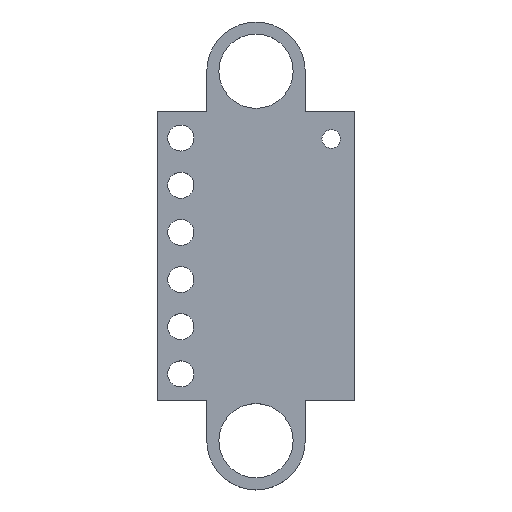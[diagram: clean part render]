
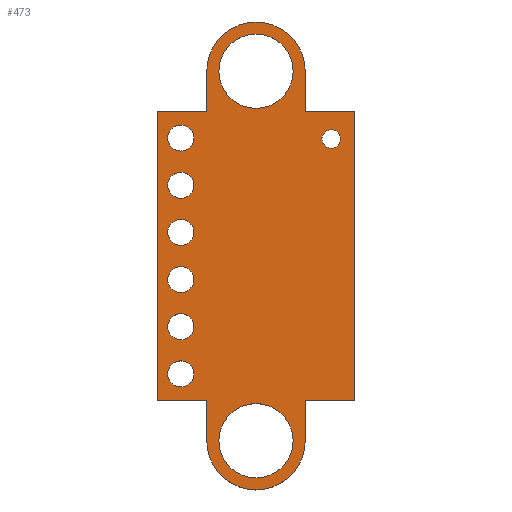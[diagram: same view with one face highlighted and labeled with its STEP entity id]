
A CAD part, top view. The second image highlights one B-rep face of the part: STEP entity #473.
In plain terms, the highlighted planar face has unit normal (0, 0, 1).
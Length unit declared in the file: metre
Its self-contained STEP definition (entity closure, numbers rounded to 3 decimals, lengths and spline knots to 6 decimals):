
#22=PLANE('',#523);
#35=LINE('',#719,#76);
#38=LINE('',#725,#79);
#41=LINE('',#731,#82);
#44=LINE('',#737,#85);
#48=LINE('',#749,#89);
#51=LINE('',#755,#92);
#54=LINE('',#761,#95);
#57=LINE('',#767,#98);
#60=LINE('',#773,#101);
#64=LINE('',#784,#105);
#76=VECTOR('',#594,1.);
#79=VECTOR('',#599,1.);
#82=VECTOR('',#604,1.);
#85=VECTOR('',#609,1.);
#89=VECTOR('',#621,1.);
#92=VECTOR('',#626,1.);
#95=VECTOR('',#631,1.);
#98=VECTOR('',#636,1.);
#101=VECTOR('',#641,1.);
#105=VECTOR('',#653,1.);
#190=ORIENTED_EDGE('',*,*,#294,.T.);
#191=ORIENTED_EDGE('',*,*,#291,.T.);
#192=ORIENTED_EDGE('',*,*,#288,.T.);
#193=ORIENTED_EDGE('',*,*,#285,.T.);
#194=ORIENTED_EDGE('',*,*,#282,.T.);
#195=ORIENTED_EDGE('',*,*,#279,.T.);
#196=ORIENTED_EDGE('',*,*,#276,.T.);
#197=ORIENTED_EDGE('',*,*,#273,.T.);
#198=ORIENTED_EDGE('',*,*,#270,.T.);
#199=ORIENTED_EDGE('',*,*,#267,.T.);
#200=ORIENTED_EDGE('',*,*,#264,.T.);
#201=ORIENTED_EDGE('',*,*,#261,.T.);
#202=ORIENTED_EDGE('',*,*,#256,.T.);
#203=ORIENTED_EDGE('',*,*,#253,.T.);
#204=ORIENTED_EDGE('',*,*,#250,.T.);
#205=ORIENTED_EDGE('',*,*,#247,.T.);
#206=ORIENTED_EDGE('',*,*,#244,.T.);
#207=ORIENTED_EDGE('',*,*,#241,.T.);
#208=ORIENTED_EDGE('',*,*,#238,.T.);
#209=ORIENTED_EDGE('',*,*,#235,.T.);
#210=ORIENTED_EDGE('',*,*,#232,.T.);
#232=EDGE_CURVE('',#295,#295,#337,.F.);
#235=EDGE_CURVE('',#297,#297,#339,.F.);
#238=EDGE_CURVE('',#299,#299,#341,.F.);
#241=EDGE_CURVE('',#301,#301,#343,.F.);
#244=EDGE_CURVE('',#303,#303,#345,.F.);
#247=EDGE_CURVE('',#305,#305,#347,.F.);
#250=EDGE_CURVE('',#307,#307,#349,.F.);
#253=EDGE_CURVE('',#309,#309,#351,.F.);
#256=EDGE_CURVE('',#311,#311,#353,.F.);
#261=EDGE_CURVE('',#316,#315,#35,.F.);
#264=EDGE_CURVE('',#318,#316,#38,.F.);
#267=EDGE_CURVE('',#320,#318,#41,.T.);
#270=EDGE_CURVE('',#322,#320,#44,.F.);
#273=EDGE_CURVE('',#324,#322,#356,.T.);
#276=EDGE_CURVE('',#326,#324,#48,.T.);
#279=EDGE_CURVE('',#328,#326,#51,.T.);
#282=EDGE_CURVE('',#330,#328,#54,.T.);
#285=EDGE_CURVE('',#332,#330,#57,.F.);
#288=EDGE_CURVE('',#334,#332,#60,.T.);
#291=EDGE_CURVE('',#336,#334,#358,.T.);
#294=EDGE_CURVE('',#315,#336,#64,.F.);
#295=VERTEX_POINT('',#661);
#297=VERTEX_POINT('',#667);
#299=VERTEX_POINT('',#673);
#301=VERTEX_POINT('',#679);
#303=VERTEX_POINT('',#685);
#305=VERTEX_POINT('',#691);
#307=VERTEX_POINT('',#697);
#309=VERTEX_POINT('',#703);
#311=VERTEX_POINT('',#709);
#315=VERTEX_POINT('',#718);
#316=VERTEX_POINT('',#720);
#318=VERTEX_POINT('',#726);
#320=VERTEX_POINT('',#732);
#322=VERTEX_POINT('',#738);
#324=VERTEX_POINT('',#744);
#326=VERTEX_POINT('',#750);
#328=VERTEX_POINT('',#756);
#330=VERTEX_POINT('',#762);
#332=VERTEX_POINT('',#768);
#334=VERTEX_POINT('',#774);
#336=VERTEX_POINT('',#780);
#337=CIRCLE('',#481,0.0007);
#339=CIRCLE('',#484,0.002);
#341=CIRCLE('',#487,0.0005);
#343=CIRCLE('',#490,0.0007);
#345=CIRCLE('',#493,0.0007);
#347=CIRCLE('',#496,0.0007);
#349=CIRCLE('',#499,0.0007);
#351=CIRCLE('',#502,0.0007);
#353=CIRCLE('',#505,0.002);
#356=CIRCLE('',#513,0.00265);
#358=CIRCLE('',#521,0.00265);
#380=EDGE_LOOP('',(#190,#191,#192,#193,#194,#195,#196,#197,#198,#199,#200,
#201));
#381=EDGE_LOOP('',(#202));
#382=EDGE_LOOP('',(#203));
#383=EDGE_LOOP('',(#204));
#384=EDGE_LOOP('',(#205));
#385=EDGE_LOOP('',(#206));
#386=EDGE_LOOP('',(#207));
#387=EDGE_LOOP('',(#208));
#388=EDGE_LOOP('',(#209));
#389=EDGE_LOOP('',(#210));
#421=FACE_BOUND('',#380,.T.);
#422=FACE_BOUND('',#381,.T.);
#423=FACE_BOUND('',#382,.T.);
#424=FACE_BOUND('',#383,.T.);
#425=FACE_BOUND('',#384,.T.);
#426=FACE_BOUND('',#385,.T.);
#427=FACE_BOUND('',#386,.T.);
#428=FACE_BOUND('',#387,.T.);
#429=FACE_BOUND('',#388,.T.);
#430=FACE_BOUND('',#389,.T.);
#473=ADVANCED_FACE('',(#421,#422,#423,#424,#425,#426,#427,#428,#429,#430),
#22,.T.);
#481=AXIS2_PLACEMENT_3D('',#660,#529,#530);
#484=AXIS2_PLACEMENT_3D('',#666,#536,#537);
#487=AXIS2_PLACEMENT_3D('',#672,#543,#544);
#490=AXIS2_PLACEMENT_3D('',#678,#550,#551);
#493=AXIS2_PLACEMENT_3D('',#684,#557,#558);
#496=AXIS2_PLACEMENT_3D('',#690,#564,#565);
#499=AXIS2_PLACEMENT_3D('',#696,#571,#572);
#502=AXIS2_PLACEMENT_3D('',#702,#578,#579);
#505=AXIS2_PLACEMENT_3D('',#708,#585,#586);
#513=AXIS2_PLACEMENT_3D('',#743,#615,#616);
#521=AXIS2_PLACEMENT_3D('',#779,#647,#648);
#523=AXIS2_PLACEMENT_3D('',#785,#654,#655);
#529=DIRECTION('',(0.,0.,1.));
#530=DIRECTION('',(0.,-1.,0.));
#536=DIRECTION('',(0.,0.,1.));
#537=DIRECTION('',(0.,-1.,0.));
#543=DIRECTION('',(0.,0.,1.));
#544=DIRECTION('',(0.,-1.,0.));
#550=DIRECTION('',(0.,0.,1.));
#551=DIRECTION('',(0.,-1.,0.));
#557=DIRECTION('',(0.,0.,1.));
#558=DIRECTION('',(0.,-1.,0.));
#564=DIRECTION('',(0.,0.,1.));
#565=DIRECTION('',(0.,-1.,0.));
#571=DIRECTION('',(0.,0.,1.));
#572=DIRECTION('',(0.,-1.,0.));
#578=DIRECTION('',(0.,0.,1.));
#579=DIRECTION('',(0.,-1.,0.));
#585=DIRECTION('',(0.,0.,1.));
#586=DIRECTION('',(0.,-1.,0.));
#594=DIRECTION('',(1.,0.,0.));
#599=DIRECTION('',(0.,-1.,0.));
#604=DIRECTION('',(1.,0.,0.));
#609=DIRECTION('',(0.,-1.,0.));
#615=DIRECTION('',(0.,0.,1.));
#616=DIRECTION('',(0.,-1.,0.));
#621=DIRECTION('',(0.,-1.,0.));
#626=DIRECTION('',(1.,0.,0.));
#631=DIRECTION('',(0.,-1.,0.));
#636=DIRECTION('',(1.,0.,0.));
#641=DIRECTION('',(0.,-1.,0.));
#647=DIRECTION('',(0.,0.,1.));
#648=DIRECTION('',(0.,-1.,0.));
#653=DIRECTION('',(0.,-1.,0.));
#654=DIRECTION('',(0.,0.,1.));
#655=DIRECTION('',(0.,-1.,0.));
#660=CARTESIAN_POINT('',(-0.04455,0.00127,-0.0284));
#661=CARTESIAN_POINT('',(-0.04455,0.00197,-0.0284));
#666=CARTESIAN_POINT('',(-0.0405,0.00995,-0.0284));
#667=CARTESIAN_POINT('',(-0.0405,0.01195,-0.0284));
#672=CARTESIAN_POINT('',(-0.03645,0.0063,-0.0284));
#673=CARTESIAN_POINT('',(-0.03645,0.0068,-0.0284));
#678=CARTESIAN_POINT('',(-0.04455,0.00635,-0.0284));
#679=CARTESIAN_POINT('',(-0.04455,0.00705,-0.0284));
#684=CARTESIAN_POINT('',(-0.04455,-0.00635,-0.0284));
#685=CARTESIAN_POINT('',(-0.04455,-0.00565,-0.0284));
#690=CARTESIAN_POINT('',(-0.04455,-0.00381,-0.0284));
#691=CARTESIAN_POINT('',(-0.04455,-0.00311,-0.0284));
#696=CARTESIAN_POINT('',(-0.04455,0.00381,-0.0284));
#697=CARTESIAN_POINT('',(-0.04455,0.00451,-0.0284));
#702=CARTESIAN_POINT('',(-0.04455,-0.00127,-0.0284));
#703=CARTESIAN_POINT('',(-0.04455,-0.00057,-0.0284));
#708=CARTESIAN_POINT('',(-0.0405,-0.00995,-0.0284));
#709=CARTESIAN_POINT('',(-0.0405,-0.00795,-0.0284));
#718=CARTESIAN_POINT('',(-0.03785,0.0078,-0.0284));
#719=CARTESIAN_POINT('',(-0.0405,0.0078,-0.0284));
#720=CARTESIAN_POINT('',(-0.0352,0.0078,-0.0284));
#725=CARTESIAN_POINT('',(-0.0352,0.,-0.0284));
#726=CARTESIAN_POINT('',(-0.0352,-0.0078,-0.0284));
#731=CARTESIAN_POINT('',(-0.0405,-0.0078,-0.0284));
#732=CARTESIAN_POINT('',(-0.03785,-0.0078,-0.0284));
#737=CARTESIAN_POINT('',(-0.03785,0.,-0.0284));
#738=CARTESIAN_POINT('',(-0.03785,-0.00995,-0.0284));
#743=CARTESIAN_POINT('',(-0.0405,-0.00995,-0.0284));
#744=CARTESIAN_POINT('',(-0.04315,-0.00995,-0.0284));
#749=CARTESIAN_POINT('',(-0.04315,0.,-0.0284));
#750=CARTESIAN_POINT('',(-0.04315,-0.0078,-0.0284));
#755=CARTESIAN_POINT('',(-0.0405,-0.0078,-0.0284));
#756=CARTESIAN_POINT('',(-0.0458,-0.0078,-0.0284));
#761=CARTESIAN_POINT('',(-0.0458,0.,-0.0284));
#762=CARTESIAN_POINT('',(-0.0458,0.0078,-0.0284));
#767=CARTESIAN_POINT('',(-0.0405,0.0078,-0.0284));
#768=CARTESIAN_POINT('',(-0.04315,0.0078,-0.0284));
#773=CARTESIAN_POINT('',(-0.04315,0.,-0.0284));
#774=CARTESIAN_POINT('',(-0.04315,0.00995,-0.0284));
#779=CARTESIAN_POINT('',(-0.0405,0.00995,-0.0284));
#780=CARTESIAN_POINT('',(-0.03785,0.00995,-0.0284));
#784=CARTESIAN_POINT('',(-0.03785,0.,-0.0284));
#785=CARTESIAN_POINT('',(-0.0405,0.,-0.0284));
